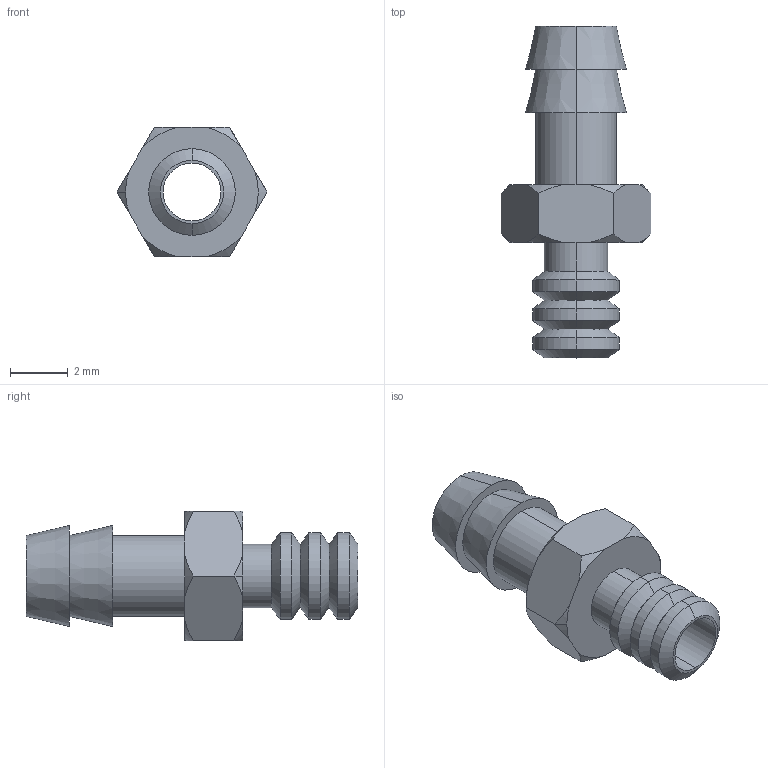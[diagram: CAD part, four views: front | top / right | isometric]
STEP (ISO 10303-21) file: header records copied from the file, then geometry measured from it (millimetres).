
FILE_DESCRIPTION (( 'STEP AP214' ), '1' );
FILE_NAME ('APB-M3-φ4.STEP', '2019-11-18T07:57:28', ( '微软用户' ), ( '微软中国' ), 'SwSTEP 2.0', 'SolidWorks 2016', '' );
FILE_SCHEMA (( 'AUTOMOTIVE_DESIGN' ));
Length unit declared in the file: millimetre
Products named in the file (1): APB-M3-耳4
Bounding box: 5.2 x 11.5 x 4.5 mm (x, y, z)
Volume: 59.5 mm3; surface area: 234 mm2
Topology: 2 solids, 2 shells, 57 faces, 130 edges, 80 vertices
Faces by surface type: cone 30, cylinder 14, plane 13
Entity records: 1699 total; most frequent: CARTESIAN_POINT 364, DIRECTION 278, ORIENTED_EDGE 260, EDGE_CURVE 130, AXIS2_PLACEMENT_3D 114, VERTEX_POINT 80, EDGE_LOOP 64, FACE_OUTER_BOUND 57
